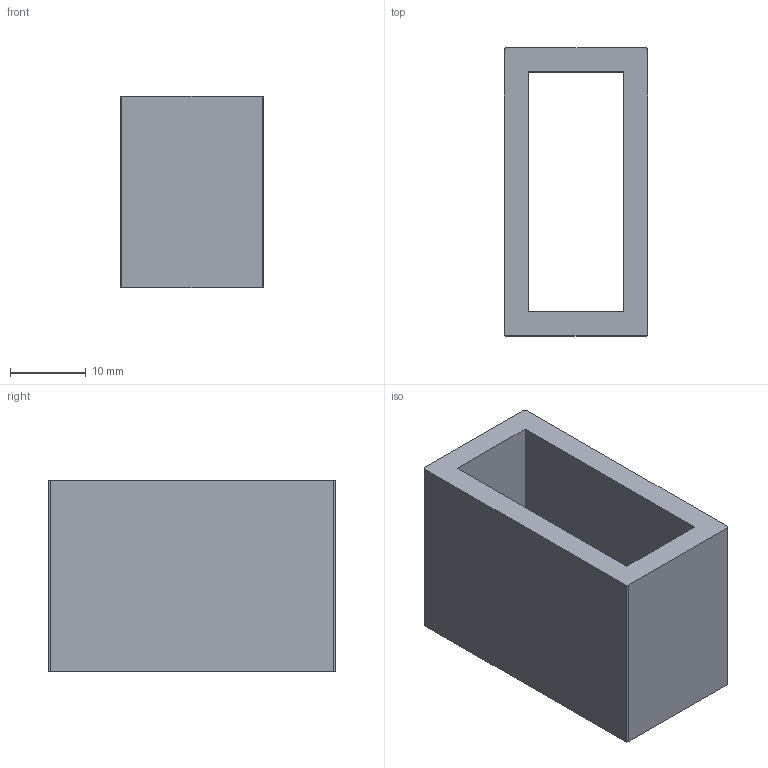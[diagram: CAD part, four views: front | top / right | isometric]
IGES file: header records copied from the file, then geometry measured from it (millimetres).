
Global section: file name: C:\Documents and Settings\Administrator\Desktop\Transfer Temp\sqtube1500x0750.igs; native system: AutoDesk Inventor R2.0 ; preprocessor: AutoDesk Inventor Iges Exporter R2.0; author: No Author specified; organization: No Organization specified; date: 20020121.083635; units: inch
Bounding box: 19.05 x 38.1 x 25.4 mm (x, y, z)
Surface area: 5795.3 mm2 (no closed solid volume)
Topology: 0 solids, 0 shells, 18 faces, 96 edges, 96 vertices
Faces by surface type: bspline 10, revolution 8
